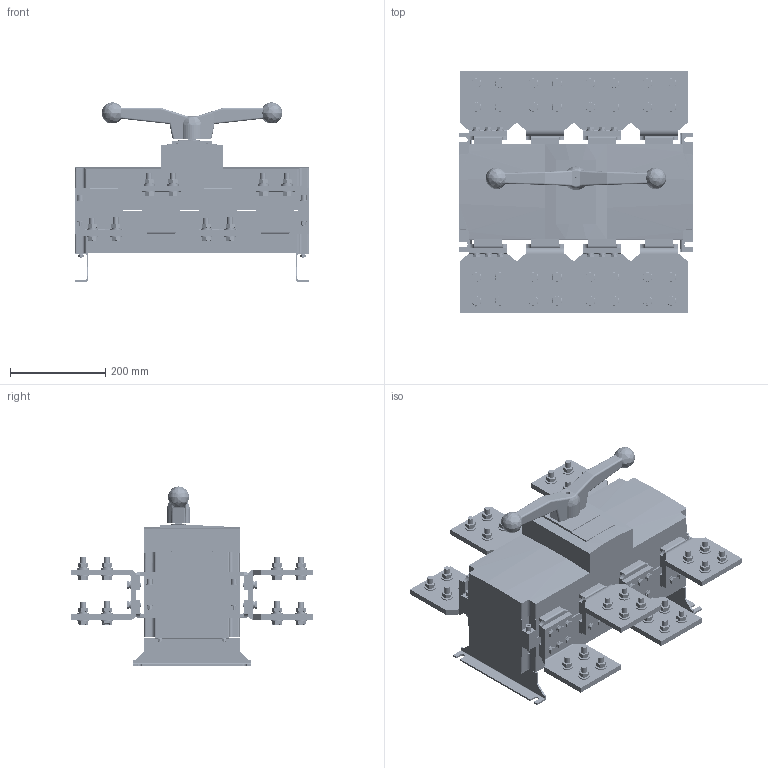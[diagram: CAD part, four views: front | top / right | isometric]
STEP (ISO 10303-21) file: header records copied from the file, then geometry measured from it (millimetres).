
FILE_DESCRIPTION((''),'2;1');
FILE_NAME('ASM0005_ASM','2024-11-19T',('zhuanghy'),(''),'CREO PARAMETRIC BY PTC INC, 2018070','CREO PARAMETRIC BY PTC INC, 2018070','');
FILE_SCHEMA(('AUTOMOTIVE_DESIGN { 1 0 10303 214 1 1 1 1 }'));
Length unit declared in the file: millimetre
Products named in the file (41): BANNH40-3150-4_7_1_1_1_1_1_1; DZNH40-3150-4_5_1_1_1_1_1_1; LJBNH40-3150-4_3_1_1_1_1_1_1; SGNH40-3150-4_5_1_1_1_1_1_1; FZNH40-3150-4_1_1_1_1_1_1_1; ZSJNH40-3150-4_1_1_1_1_1_1_1; PDQ8_3_1_1_2_3_4_1_1_1_1; PDQ6_1_1_1_2_3_4_1_1_1_1; TDQ6_1_1_1_2_3_4_1_1_1_1; NLFLSM6_10_1_1_2_3_4_1_1_1_1; LMM6_2_1_1_2_3_4_1_1_1_1; LSM6_6_1_1_2_3_4_1_1_1_1; NH40-3150-4_ASM_3_AF0_ASM_1_A_2_ASM; NH40-3150-4_4P_202103_ASM_1_A_2_ASM; LSM6_14_1_2_3_4_1_1_1_1; NH40-1000-3150_ASM_7_1_2_3_AS_1_ASM; ASM0005_ASM_1_ASM_1_ASM_1_1_ASM; PRT0004_1_1_1_1; NH40-3150-4_4P_202210_ASM_1_1_1_ASM; NH40-3150-4W_4P_202312_ASM_1__1_ASM; AZBNH40-3150-3_7_1_1_1_2_1; CTNH40-3150-3_3_1_1_1_3_1_2_3; PDQ12_3_1_1_1_1_1_2_3; LSM12_6_1_1_1_1_1_2_3; TDQ12_3_1_1_1_1_1_2_3; LMM12_3_1_1_1_1_1_2_3; PDQ6_1_1_1_2_3_1_4_1_2_3; TDQ6_1_1_1_2_3_1_2_1_2_3; LSM6_6_1_1_2_3_1_1_1_2_3; 1-0001_ASM_3_1_2_ASM; CTNH40-3150-3_3_1_1_1_3; PDQ12_3_1_1_1_1; LSM12_6_1_1_1_1; TDQ12_3_1_1_1_1; LMM12_3_1_1_1_1; LSM6_6_1_1_2_3_1_1; PDQ6_1_1_1_2_3_1_4; TDQ6_1_1_1_2_3_1_2; ASM0001_ASM_2_1_2_ASM; NH40-3150-4W_4P_202405_ASM_1_1_ASM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
Assembly tree (138 placements, depth 7):
  ASM0005_ASM
    NH40-3150-4W_4P_202405_ASM_1_1_ASM
      NH40-3150-4W_4P_202312_ASM_1__1_ASM
        NH40-3150-4_4P_202210_ASM_1_1_1_ASM
          NH40-3150-4_4P_202103_ASM_1_A_2_ASM
            NH40-3150-4_ASM_3_AF0_ASM_1_A_2_ASM
              BANNH40-3150-4_7_1_1_1_1_1_1  x2
              DZNH40-3150-4_5_1_1_1_1_1_1
              LJBNH40-3150-4_3_1_1_1_1_1_1  x8
              SGNH40-3150-4_5_1_1_1_1_1_1
              FZNH40-3150-4_1_1_1_1_1_1_1
              ZSJNH40-3150-4_1_1_1_1_1_1_1
              PDQ8_3_1_1_2_3_4_1_1_1_1  x4
              PDQ6_1_1_1_2_3_4_1_1_1_1  x4
              TDQ6_1_1_1_2_3_4_1_1_1_1  x4
              NLFLSM6_10_1_1_2_3_4_1_1_1_1  x4
              LMM6_2_1_1_2_3_4_1_1_1_1  x7
              LSM6_6_1_1_2_3_4_1_1_1_1  x4
          ASM0005_ASM_1_ASM_1_ASM_1_1_ASM
            NH40-1000-3150_ASM_7_1_2_3_AS_1_ASM
              LSM6_14_1_2_3_4_1_1_1_1
          PRT0004_1_1_1_1
      AZBNH40-3150-3_7_1_1_1_2_1  x2
      1-0001_ASM_3_1_2_ASM  x4
        CTNH40-3150-3_3_1_1_1_3_1_2_3
        PDQ12_3_1_1_1_1_1_2_3
        LSM12_6_1_1_1_1_1_2_3
        TDQ12_3_1_1_1_1_1_2_3
        LMM12_3_1_1_1_1_1_2_3
        PDQ6_1_1_1_2_3_1_4_1_2_3
        TDQ6_1_1_1_2_3_1_2_1_2_3
        LSM6_6_1_1_2_3_1_1_1_2_3
      ASM0001_ASM_2_1_2_ASM  x4
        CTNH40-3150-3_3_1_1_1_3
        PDQ12_3_1_1_1_1
        LSM12_6_1_1_1_1
        TDQ12_3_1_1_1_1
        LMM12_3_1_1_1_1
        LSM6_6_1_1_2_3_1_1
        PDQ6_1_1_1_2_3_1_4
        TDQ6_1_1_1_2_3_1_2
Bounding box: 492 x 508 x 376.98 mm (x, y, z)
Volume: 21453842.7 mm3; surface area: 2314952.9 mm2
Topology: 356 solids, 358 shells, 4310 faces, 10537 edges, 7026 vertices
Faces by surface type: plane 2140, cylinder 1461, cone 690, bspline 10, sphere 4, extrusion 3, torus 2
Entity records: 25508 total; most frequent: CARTESIAN_POINT 5963, DIRECTION 3778, ORIENTED_EDGE 3311, EDGE_CURVE 1657, AXIS2_PLACEMENT_3D 1472, VERTEX_POINT 1112, VECTOR 834, LINE 831
